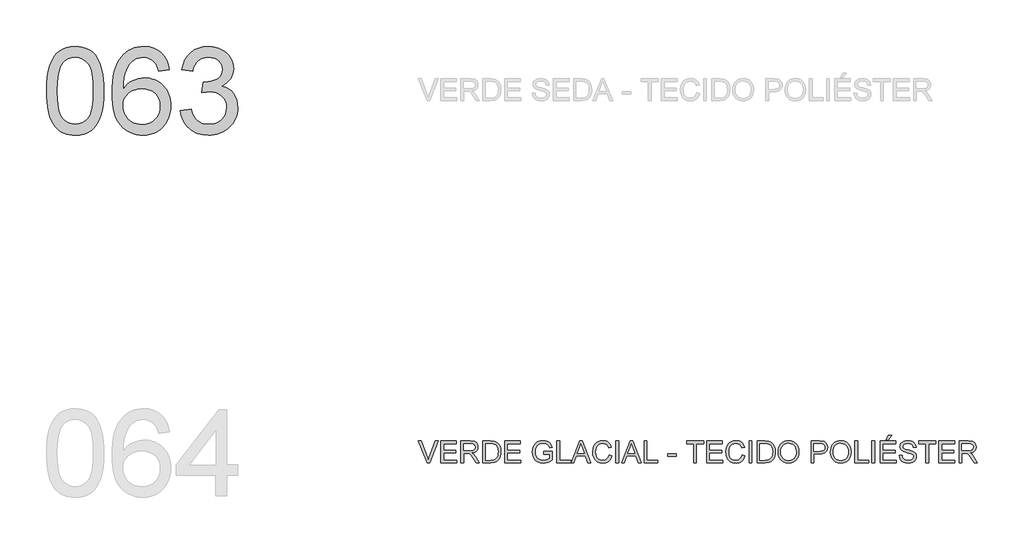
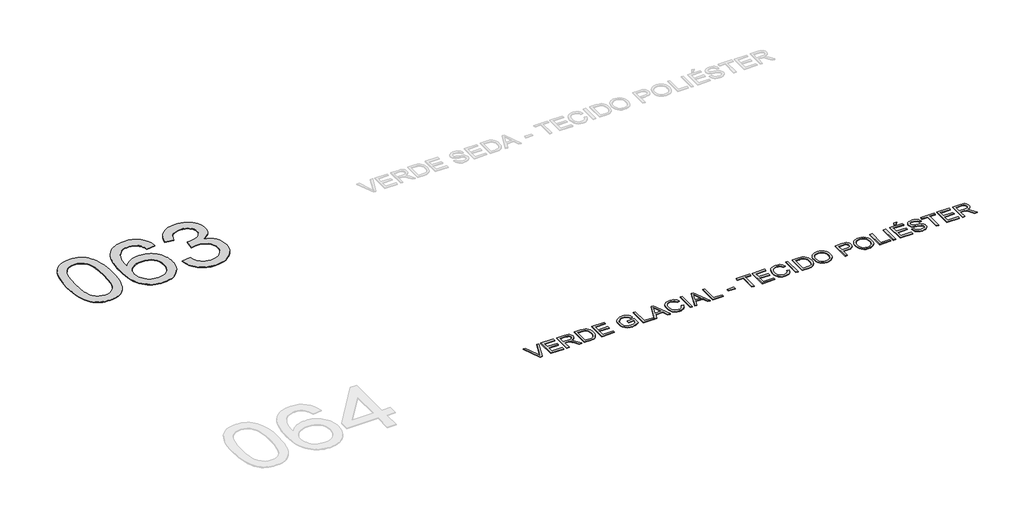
# One storey, part 10 of 67: 2 proxies.
"""IFC4 building model written with IfcOpenShell, lengths in millimetres."""

from ifc_helpers import new_model, si_unit, origin, origin_with_axes, place, context, project, spatial, polyline, outline, extrude, element, save

model = new_model("IFC4")

# Units and contexts
model_context = context("Model", 3, world=origin())
ifc_project = project(units=[si_unit("LENGTHUNIT", "METRE", prefix="MILLI")], contexts=[model_context])

# Site, building, storey
site = spatial("IfcSite", under=ifc_project)
building = spatial("IfcBuilding", under=site)
storey = spatial("IfcBuildingStorey", under=building, Name="Marelli - Linha COLAB - Planta Baixa", Elevation=0.0)

# Proxies
placement = place(None, origin())
element("IfcBuildingElementProxy", 1, Name="1200mm Arial", ObjectType="1200mm Arial", at=placement, inside=storey, context=model_context, shape_type="SweptSolid", body=[
    extrude(outline(polyline([(-25275.30917, -74895.792664), (-25272.540858, -74794.4319773), (-25264.2359219, -74702.8385576), (-25250.3943618, -74621.0124048), (-25231.0161777, -74548.953519), (-25206.1841431, -74486.073289), (-25175.9810313, -74431.7831035), (-25140.4068423, -74386.0829627), (-25099.4615763, -74348.9728664), (-25053.0072773, -74320.2596767), (-25000.9059898, -74299.7502555), (-24943.1577136, -74287.4446027), (-24879.7624488, -74283.3427185), (-24832.1217304, -74285.7707396), (-24786.9090332, -74293.0548031), (-24744.1243571, -74305.194909), (-24703.7677023, -74322.1910572), (-24666.8139558, -74343.7581391), (-24634.2380052, -74369.6110463), (-24606.0398502, -74399.7497788), (-24582.2194911, -74434.1743365), (-24561.5813111, -74472.7467637), (-24542.929694, -74515.3291046), (-24511.586148, -74612.5235278), (-24499.611589, -74669.6831928), (-24491.0583327, -74735.9479371), (-24485.9263788, -74811.3177609), (-24484.2157275, -74895.792664), (-24486.9564484, -74996.5095573), (-24495.178611, -75087.6431245), (-24508.8822153, -75169.1933658), (-24528.0672614, -75241.1602811), (-24552.706158, -75304.0681023), (-24582.771314, -75358.4410612), (-24618.2627295, -75404.2791578), (-24659.1804044, -75441.5823921), (-24705.6898857, -75470.4887199), (-24757.9567202, -75491.1360968), (-24815.9809078, -75503.524523), (-24879.7624488, -75507.6539984), (-24922.4367602, -75505.8605737), (-24962.7566269, -75500.4802995), (-25000.7220488, -75491.5131759), (-25036.3330259, -75478.9592028), (-25069.5895583, -75462.8183803), (-25100.4916459, -75443.0907083), (-25129.0392887, -75419.7761868), (-25155.2324867, -75392.8748159), (-25183.3754594, -75350.2786794), (-25207.7660357, -75302.0999336), (-25228.4042156, -75248.3385785), (-25245.2899992, -75188.9946142), (-25258.4233864, -75124.0680406), (-25267.8043773, -75053.5588577), (-25273.4329718, -74977.4670655), (-25275.30917, -74895.792664)]), holes=[polyline([(-25124.6247047, -74895.4983584), (-25120.2101208, -75026.4919399), (-25106.966369, -75132.5247279), (-25097.0335551, -75176.1808245), (-25084.8934493, -75213.5967226), (-25070.5460515, -75244.7724225), (-25053.9913617, -75269.7079239), (-25016.614551, -75307.884878), (-24975.1174619, -75335.1541309), (-24929.5000945, -75351.5156826), (-24879.7624488, -75356.9695332), (-24830.024803, -75351.4972885), (-24784.4074356, -75335.0805545), (-24742.9103465, -75307.7193311), (-24705.5335358, -75269.4136183), (-24688.9788461, -75244.418336), (-24674.6314482, -75213.2104465), (-24662.4913424, -75175.7899498), (-24652.5585285, -75132.1568459), (-24639.3147767, -75026.2528166), (-24634.9001928, -74895.4983584), (-24639.1676239, -74767.9720648), (-24651.9699173, -74663.8062779), (-24661.5716374, -74620.4835744), (-24673.3070731, -74583.0009976), (-24687.1762243, -74551.3585475), (-24703.1790911, -74525.5562241), (-24739.9305024, -74485.5122689), (-24781.905838, -74456.9094438), (-24829.105098, -74439.7477487), (-24881.5282823, -74434.0271837), (-24931.0084107, -74439.067167), (-24975.8532259, -74454.187117), (-25016.062728, -74479.3870337), (-25051.6369169, -74514.666917), (-25068.7434297, -74543.2145599), (-25083.5690741, -74577.2068562), (-25096.1138501, -74616.6438061), (-25106.3777578, -74661.5254095), (-25120.062968, -74767.6225769), (-25124.6247047, -74895.4983584)])]), origin_with_axes(), (0.0, 0.0, 1.0), 10.0),
    extrude(outline(polyline([(-23580.1089362, -74603.5472071), (-23730.7934014, -74622.3827652), (-23741.8666495, -74582.0812927), (-23755.0736131, -74547.7027202), (-23770.4142923, -74519.2470479), (-23787.8886871, -74496.7142757), (-23820.2806967, -74469.2886729), (-23856.2411618, -74449.6989567), (-23895.7700822, -74437.9451269), (-23938.8674579, -74434.0271837), (-23974.4048586, -74436.3080521), (-24008.9121898, -74443.1506572), (-24042.3894513, -74454.554999), (-24074.8366433, -74470.5210776), (-24104.4419469, -74496.6315022), (-24131.4536824, -74528.1681863), (-24155.8718498, -74565.1311297), (-24177.6964492, -74607.5203326), (-24195.7686522, -74658.1316981), (-24208.9296306, -74719.7611293), (-24217.1793843, -74792.4086263), (-24220.5179134, -74876.0741891), (-24191.7955266, -74838.2099347), (-24160.0749016, -74805.5512106), (-24125.3560383, -74778.0980167), (-24087.6389367, -74755.8503531), (-24047.9352724, -74738.6610669), (-24007.2567208, -74726.3830053), (-23965.6032819, -74719.0161683), (-23922.9749557, -74716.560556), (-23886.0763916, -74718.2390176), (-23850.575779, -74723.2744024), (-23816.4731181, -74731.6667104), (-23783.7684087, -74743.4159416), (-23752.4616509, -74758.5220961), (-23722.5528447, -74776.9851737), (-23694.0419901, -74798.8051745), (-23666.9290871, -74823.9820986), (-23642.1660303, -74851.81697), (-23620.7047144, -74881.6108131), (-23602.5451394, -74913.3636278), (-23587.6873053, -74947.0754142), (-23576.1312121, -74982.7461721), (-23567.8768599, -75020.3759017), (-23562.9242485, -75059.9646029), (-23561.273378, -75101.5122757), (-23564.3819809, -75156.4462547), (-23573.7077895, -75209.4120649), (-23589.2508038, -75260.4097065), (-23611.0110238, -75309.4391794), (-23638.2158973, -75354.6702707), (-23670.0928722, -75394.2727675), (-23706.6419484, -75428.2466698), (-23747.863126, -75456.5919775), (-23792.8734881, -75478.9316116), (-23840.790118, -75494.8884932), (-23891.6130156, -75504.4626221), (-23945.342181, -75507.6539984), (-23991.3435252, -75505.5386769), (-24035.1697672, -75499.1927125), (-24076.8209068, -75488.6161052), (-24116.2969442, -75473.8088549), (-24153.5978792, -75454.7709616), (-24188.723712, -75431.5024254), (-24221.6744424, -75404.0032463), (-24252.4500706, -75372.2734242), (-24280.2826428, -75335.6875598), (-24304.4042053, -75293.6202536), (-24324.8147583, -75246.0715057), (-24341.5143016, -75193.0413161), (-24354.5028353, -75134.5296848), (-24363.7803594, -75070.5366117), (-24369.3468738, -75001.062097), (-24371.2023786, -74926.1061404), (-24369.1422394, -74842.1784618), (-24362.9618219, -74764.1828803), (-24352.6611261, -74692.1193959), (-24338.2401519, -74625.9880088), (-24319.6988993, -74565.7887188), (-24297.0373684, -74511.521526), (-24270.2555591, -74463.1864303), (-24239.3534716, -74420.7834319), (-24209.3388993, -74388.5707647), (-24176.8319265, -74360.6531198), (-24141.8325532, -74337.0304971), (-24104.3407793, -74317.7028968), (-24064.356605, -74302.6703188), (-24021.8800301, -74291.9327631), (-23976.9110547, -74285.4902296), (-23929.4496788, -74283.3427185), (-23860.0487404, -74288.6586133), (-23797.2328897, -74304.6062978), (-23741.0021268, -74331.1857719), (-23691.3564515, -74368.3970358), (-23649.6386333, -74414.9892904), (-23617.1914413, -74469.7117372), (-23594.0148756, -74532.5643761), (-23580.1089362, -74603.5472071)]), holes=[polyline([(-24220.5179134, -75099.157831), (-24218.3382126, -75132.9202011), (-24211.7991101, -75165.9284131), (-24200.900606, -75198.182467), (-24185.6427003, -75229.6823629), (-24166.7703539, -75258.9473756), (-24145.028528, -75284.4967801), (-24120.4172225, -75306.3305766), (-24092.9364375, -75324.4487648), (-24062.7609168, -75338.676601), (-24030.0654045, -75348.8393411), (-23994.8499005, -75354.9369852), (-23957.1144049, -75356.9695332), (-23904.7372058, -75352.7572843), (-23857.6759016, -75340.1205378), (-23815.9304922, -75319.0592936), (-23779.5009776, -75289.5735517), (-23749.9508563, -75252.8589286), (-23728.8436268, -75210.1110407), (-23716.1792892, -75161.3298882), (-23711.9578433, -75106.5154709), (-23716.1241069, -75053.8439662), (-23728.6228976, -75007.0769676), (-23749.4542156, -74966.214475), (-23778.6180608, -74931.2564884), (-23815.15794, -74903.2514715), (-23858.1173599, -74883.247888), (-23907.4963208, -74871.2457379), (-23963.2948224, -74867.2450212), (-24014.9730456, -74871.2457379), (-24062.5861729, -74883.247888), (-24106.134204, -74903.2514715), (-24145.6171392, -74931.2564884), (-24178.3862279, -74965.7546225), (-24201.7927198, -75005.2375576), (-24215.836615, -75049.7052938), (-24220.5179134, -75099.157831)])]), origin_with_axes(), (0.0, 0.0, 1.0), 10.0),
    extrude(outline(polyline([(-23429.424471, -75168.6139517), (-23278.7400057, -75149.7783935), (-23263.8315879, -75200.9691731), (-23245.0052268, -75244.4712191), (-23222.2609224, -75280.2845313), (-23195.5986748, -75308.4091098), (-23164.4114787, -75329.6542951), (-23128.0923287, -75344.8294274), (-23086.6412249, -75353.9345067), (-23040.0581673, -75356.9695332), (-22985.4644792, -75352.7940725), (-22936.756903, -75340.2676906), (-22893.9354388, -75319.3903874), (-22857.0000865, -75290.1621629), (-22827.2568272, -75254.7719149), (-22806.0116419, -75215.4085415), (-22793.2645308, -75172.0720424), (-22789.0154938, -75124.7624178), (-22793.2277426, -75079.7060705), (-22805.8644891, -75038.7148192), (-22826.9257334, -75001.7886639), (-22856.4114753, -74968.9276047), (-22892.3903344, -74941.9526574), (-22932.9309303, -74922.6848379), (-22978.0332629, -74911.1241462), (-23027.6973322, -74907.2705823), (-23075.3012624, -74911.3908606), (-23133.3530413, -74923.7516957), (-23116.5776223, -74773.0672304), (-23092.4445634, -74774.833064), (-23046.1098261, -74772.1291314), (-23002.1663218, -74764.0173334), (-22960.6140504, -74750.49767), (-22921.453012, -74731.5701414), (-22888.2332679, -74707.0324123), (-22864.5048792, -74676.6821477), (-22850.267846, -74640.5193476), (-22845.5221682, -74598.5440119), (-22848.9618649, -74564.4689421), (-22859.2809548, -74533.465687), (-22876.4794381, -74505.5342465), (-22900.5573147, -74480.6746207), (-22930.0614507, -74460.266367), (-22963.5387123, -74445.6890429), (-23000.9890994, -74436.9426485), (-23042.412612, -74434.0271837), (-23083.7257601, -74436.9702397), (-23121.4336646, -74445.7994075), (-23155.5363256, -74460.5146873), (-23186.033743, -74481.1160791), (-23212.1717587, -74507.6035827), (-23233.1962147, -74539.9771983), (-23249.107111, -74578.2369258), (-23259.9044476, -74622.3827652), (-23410.5889128, -74603.5472071), (-23392.728242, -74531.6078829), (-23366.2223442, -74468.2402092), (-23331.0712196, -74413.4441861), (-23287.274868, -74367.2198134), (-23236.2128471, -74330.5235844), (-23179.2647142, -74304.3119922), (-23116.4304695, -74288.5850369), (-23047.7101128, -74283.3427185), (-22999.3796157, -74285.9270895), (-22952.980499, -74293.6802025), (-22908.5127628, -74306.6020576), (-22865.9764072, -74324.6926547), (-22826.852157, -74347.2622151), (-22792.6207373, -74373.6209601), (-22763.2821482, -74403.7688896), (-22738.8363896, -74437.7060036), (-22719.5869642, -74474.0803359), (-22705.8373747, -74511.5399201), (-22697.5876209, -74550.0847561), (-22694.837703, -74589.7148441), (-22697.4496652, -74626.9812902), (-22705.2855517, -74662.5554791), (-22718.3453625, -74696.4374109), (-22736.6290977, -74728.6270854), (-22760.0263925, -74758.3703447), (-22788.4268826, -74784.9130307), (-22821.8305677, -74808.2551433), (-22860.237448, -74828.3966825), (-22810.0215557, -74844.1052437), (-22765.9125045, -74866.5092572), (-22727.9102944, -74895.608723), (-22696.0149254, -74931.4036412), (-22670.7782205, -74973.0110948), (-22652.7520028, -75019.5481672), (-22641.9362721, -75071.0148583), (-22638.3310285, -75127.4111682), (-22640.1336503, -75166.3882656), (-22645.5415156, -75203.8570468), (-22654.5546245, -75239.8175118), (-22667.172977, -75274.2696607), (-22683.396573, -75307.2134933), (-22703.2254125, -75338.6490098), (-22726.6594956, -75368.5762101), (-22753.6988222, -75396.9950943), (-22783.4926653, -75422.9307749), (-22815.1902977, -75445.4083648), (-22848.7917195, -75464.427864), (-22884.2969305, -75479.9892724), (-22921.7059309, -75492.09259), (-22961.0187206, -75500.7378169), (-23002.2352996, -75505.924953), (-23045.355668, -75507.6539984), (-23121.5808174, -75501.7494924), (-23157.1550063, -75494.3688599), (-23191.0369381, -75484.0359743), (-23223.2266127, -75470.7508358), (-23253.7240301, -75454.5134442), (-23282.5291903, -75435.3237996), (-23309.6420933, -75413.1819021), (-23334.4971206, -75388.6947568), (-23356.5286536, -75362.469369), (-23375.7366923, -75334.5057389), (-23392.1212367, -75304.8038663), (-23405.6822867, -75273.3637513), (-23416.4198424, -75240.1853938), (-23429.424471, -75168.6139517)])), origin_with_axes(), (0.0, 0.0, 1.0), 10.0),
])
element("IfcBuildingElementProxy", 2, Name="300mm Arial", ObjectType="300mm Arial", at=placement, inside=storey, context=model_context, shape_type="SweptSolid", body=[
    extrude(outline(polyline([(-20026.5998277, -80030.5663201), (-20146.5293581, -79729.1973896), (-20106.2094914, -79729.1973896), (-20025.9376401, -79946.3213432), (-20009.6772559, -79995.2496485), (-19993.6376009, -79946.3213432), (-19913.1450203, -79729.1973896), (-19872.8251537, -79729.1973896), (-19987.6779126, -80030.5663201), (-20026.5998277, -80030.5663201)])), origin_with_axes(), (0.0, 0.0, 1.0), 10.0),
    extrude(outline(polyline([(-19837.8027877, -80030.5663201), (-19837.8027877, -79729.1973896), (-19621.193869, -79729.1973896), (-19621.193869, -79766.8685059), (-19800.1316714, -79766.8685059), (-19800.1316714, -79856.3374072), (-19630.611648, -79856.3374072), (-19630.611648, -79894.0085235), (-19800.1316714, -79894.0085235), (-19800.1316714, -79992.8952038), (-19616.4849794, -79992.8952038), (-19616.4849794, -80030.5663201), (-19837.8027877, -80030.5663201)])), origin_with_axes(), (0.0, 0.0, 1.0), 10.0),
    extrude(outline(polyline([(-19559.978305, -80030.5663201), (-19559.978305, -79729.1973896), (-19430.1159607, -79729.1973896), (-19395.2131564, -79731.2299376), (-19369.8201017, -79737.3275817), (-19351.260455, -79748.5847708), (-19336.8578749, -79766.0959537), (-19327.6148398, -79787.8101885), (-19324.5338281, -79811.6765329), (-19329.6381907, -79841.3646099), (-19344.9512788, -79865.9759154), (-19356.551058, -79876.0052983), (-19370.9329447, -79884.0205273), (-19408.043041, -79894.0085235), (-19386.6323088, -79910.1217548), (-19356.0981032, -79948.8965171), (-19305.8454227, -80030.5663201), (-19349.6233801, -80030.5663201), (-19388.8396008, -79968.0999573), (-19417.1665144, -79926.750021), (-19437.0689304, -79907.2154871), (-19454.9847835, -79900.0417882), (-19476.8369741, -79898.717413), (-19522.3071887, -79898.717413), (-19522.3071887, -80030.5663201), (-19559.978305, -80030.5663201)]), holes=[polyline([(-19522.3071887, -79861.0462967), (-19437.9886354, -79861.0462967), (-19413.772803, -79859.7127245), (-19394.9832301, -79855.7120078), (-19380.8381674, -79848.7774322), (-19370.5558657, -79838.6422832), (-19364.2926747, -79826.3826157), (-19362.2049444, -79813.0744845), (-19366.187267, -79794.6987789), (-19378.1342348, -79779.8915286), (-19398.6896412, -79770.1242616), (-19428.4972799, -79766.8685059), (-19522.3071887, -79766.8685059), (-19522.3071887, -79861.0462967)])]), origin_with_axes(), (0.0, 0.0, 1.0), 10.0),
    extrude(outline(polyline([(-19258.6093745, -80030.5663201), (-19258.6093745, -79729.1973896), (-19154.6459227, -79729.1973896), (-19100.861575, -79733.5383972), (-19076.8388807, -79741.9077126), (-19056.5685828, -79755.0962821), (-19035.7280677, -79778.0521186), (-19020.8840292, -79806.5997614), (-19011.9996791, -79840.1873876), (-19009.038229, -79878.2631741), (-19011.0431859, -79910.6091985), (-19017.0580565, -79939.0740679), (-19026.2183182, -79963.3082943), (-19037.6594482, -79982.9623899), (-19050.8296236, -79998.477813), (-19065.1770215, -80010.2960221), (-19081.6489378, -80019.0608107), (-19101.1926688, -80025.4159721), (-19149.6427276, -80030.5663201), (-19258.6093745, -80030.5663201)]), holes=[polyline([(-19220.9382582, -79992.8952038), (-19154.2780407, -79992.8952038), (-19126.7052852, -79991.5340404), (-19105.7911937, -79987.4505502), (-19090.0090561, -79980.8838566), (-19077.8321621, -79972.0730828), (-19064.7447601, -79955.7667134), (-19054.9131138, -79934.6594839), (-19048.7602874, -79908.6594239), (-19046.7093453, -79877.6745629), (-19050.7284561, -79836.6189322), (-19062.7857885, -79806.3054558), (-19080.6004741, -79785.4833349), (-19101.8916446, -79772.9017706), (-19123.5598941, -79768.3768221), (-19155.3081103, -79766.8685059), (-19220.9382582, -79766.8685059), (-19220.9382582, -79992.8952038)])]), origin_with_axes(), (0.0, 0.0, 1.0), 10.0),
    extrude(outline(polyline([(-18957.2404441, -80030.5663201), (-18957.2404441, -79729.1973896), (-18740.6315253, -79729.1973896), (-18740.6315253, -79766.8685059), (-18919.5693278, -79766.8685059), (-18919.5693278, -79856.3374072), (-18750.0493044, -79856.3374072), (-18750.0493044, -79894.0085235), (-18919.5693278, -79894.0085235), (-18919.5693278, -79992.8952038), (-18735.9226358, -79992.8952038), (-18735.9226358, -80030.5663201), (-18957.2404441, -80030.5663201)])), origin_with_axes(), (0.0, 0.0, 1.0), 10.0),
    extrude(outline(polyline([(-18420.4270367, -79912.8440816), (-18420.4270367, -79875.1729653), (-18297.9959087, -79875.1729653), (-18297.9959087, -79987.8184322), (-18327.7483651, -80008.5117945), (-18358.4389205, -80023.355833), (-18389.9939987, -80032.2953654), (-18422.3400231, -80035.2752096), (-18464.6004673, -80030.5387289), (-18502.7958154, -80016.3292869), (-18534.5256375, -79993.1435241), (-18557.3895035, -79961.4780814), (-18571.2126695, -79923.4942654), (-18575.8203915, -79881.3533828), (-18571.2310636, -79838.9089976), (-18557.4630799, -79799.4260625), (-18535.0866576, -79766.3074859), (-18504.6720136, -79742.9561762), (-18467.6262967, -79729.1054191), (-18425.3566554, -79724.4885001), (-18394.3258092, -79727.1648416), (-18366.4219598, -79735.1938661), (-18342.9234974, -79747.9961596), (-18325.1088118, -79764.9923077), (-18311.9294393, -79787.0008481), (-18302.3369163, -79814.8403181), (-18337.0649766, -79824.6259792), (-18344.8180897, -79804.7695485), (-18354.2450658, -79789.7875542), (-18366.7162654, -79778.493577), (-18383.602049, -79769.7011973), (-18403.7343912, -79764.0450116), (-18425.9452666, -79762.1596164), (-18451.9453266, -79764.1921644), (-18474.1745962, -79770.2898085), (-18492.5503019, -79779.6891935), (-18506.9896702, -79791.6269642), (-18526.3770513, -79820.6528536), (-18535.2062192, -79849.0901318), (-18538.1492752, -79879.8082784), (-18534.608411, -79915.8331228), (-18523.9858184, -79945.4752146), (-18506.6033941, -79968.5230216), (-18482.7830349, -79984.7650117), (-18454.9067767, -79994.3943229), (-18425.3566554, -79997.6040933), (-18399.2646249, -79995.1852692), (-18373.8163879, -79987.9287968), (-18351.7158771, -79977.9316036), (-18335.667025, -79967.2906169), (-18335.667025, -79912.8440816), (-18420.4270367, -79912.8440816)])), origin_with_axes(), (0.0, 0.0, 1.0), 10.0),
    extrude(outline(polyline([(-18236.7803447, -80030.5663201), (-18236.7803447, -79729.1973896), (-18199.1092284, -79729.1973896), (-18199.1092284, -79992.8952038), (-18048.4247632, -79992.8952038), (-18048.4247632, -80030.5663201), (-18236.7803447, -80030.5663201)])), origin_with_axes(), (0.0, 0.0, 1.0), 10.0),
    extrude(outline(polyline([(-18041.1406997, -80030.5663201), (-17920.8432873, -79729.1973896), (-17888.7639773, -79729.1973896), (-17768.4665649, -80030.5663201), (-17808.2713967, -80030.5663201), (-17842.7787279, -79936.3885293), (-17966.9021131, -79936.3885293), (-18001.3358678, -80030.5663201), (-18041.1406997, -80030.5663201)]), holes=[polyline([(-17953.06975, -79898.717413), (-17856.5375145, -79898.717413), (-17883.6872057, -79824.6259792), (-17904.8036323, -79766.8685059), (-17923.565614, -79818.1512561), (-17953.06975, -79898.717413)])]), origin_with_axes(), (0.0, 0.0, 1.0), 10.0),
    extrude(outline(polyline([(-17516.3202454, -79923.4390831), (-17478.6491291, -79933.1511677), (-17486.103338, -79956.5783531), (-17496.0315533, -79977.0486868), (-17508.4337751, -79994.5621691), (-17523.3100033, -80009.1187997), (-17540.3245456, -80020.5622291), (-17559.1417096, -80028.7361071), (-17579.7614954, -80033.640434), (-17602.183903, -80035.2752096), (-17645.879087, -80030.3271968), (-17680.5795562, -80015.4831583), (-17707.1774245, -79991.2581289), (-17726.5648056, -79958.1671434), (-17738.4014088, -79919.2636224), (-17742.3469432, -79877.6009865), (-17737.886374, -79833.6574821), (-17724.5046664, -79795.7104543), (-17702.9007963, -79764.9647166), (-17673.7737393, -79742.6250824), (-17639.22962, -79729.0226457), (-17601.3745626, -79724.4885001), (-17560.0706116, -79730.3562179), (-17542.1018754, -79737.6908652), (-17525.9219654, -79747.9593714), (-17511.7975961, -79760.8904235), (-17499.9954818, -79776.2127086), (-17483.3580186, -79814.0309777), (-17521.0291349, -79823.0072984), (-17534.0889457, -79795.5357104), (-17551.9312225, -79776.6909552), (-17574.7766944, -79765.7924511), (-17602.8460906, -79762.1596164), (-17635.2013121, -79766.1879242), (-17661.7807863, -79778.2728478), (-17681.9499166, -79797.1451941), (-17695.0741068, -79821.5357704), (-17702.2753969, -79849.1085259), (-17704.6758269, -79877.5274101), (-17701.8339385, -79912.3290468), (-17693.3082732, -79942.421794), (-17678.7769344, -79966.6560205), (-17657.9180253, -79983.8820949), (-17632.9112467, -79994.1735937), (-17605.9362994, -79997.6040933), (-17574.4915859, -79992.931992), (-17548.2891907, -79978.9156879), (-17528.5063365, -79955.702334), (-17516.3202454, -79923.4390831)])), origin_with_axes(), (0.0, 0.0, 1.0), 10.0),
    extrude(outline(polyline([(-17422.1424546, -80030.5663201), (-17422.1424546, -79729.1973896), (-17384.4713383, -79729.1973896), (-17384.4713383, -80030.5663201), (-17422.1424546, -80030.5663201)])), origin_with_axes(), (0.0, 0.0, 1.0), 10.0),
    extrude(outline(polyline([(-17344.225048, -80030.5663201), (-17223.9276356, -79729.1973896), (-17191.8483256, -79729.1973896), (-17071.5509132, -80030.5663201), (-17111.3557451, -80030.5663201), (-17145.8630762, -79936.3885293), (-17269.9864614, -79936.3885293), (-17304.4202161, -80030.5663201), (-17344.225048, -80030.5663201)]), holes=[polyline([(-17256.1540984, -79898.717413), (-17159.6218628, -79898.717413), (-17186.7715541, -79824.6259792), (-17207.8879806, -79766.8685059), (-17226.6499624, -79818.1512561), (-17256.1540984, -79898.717413)])]), origin_with_axes(), (0.0, 0.0, 1.0), 10.0),
    extrude(outline(polyline([(-17031.3046229, -80030.5663201), (-17031.3046229, -79729.1973896), (-16993.6335066, -79729.1973896), (-16993.6335066, -79992.8952038), (-16842.9490414, -79992.8952038), (-16842.9490414, -80030.5663201), (-17031.3046229, -80030.5663201)])), origin_with_axes(), (0.0, 0.0, 1.0), 10.0),
    extrude(outline(polyline([(-16706.3912448, -79941.0974188), (-16706.3912448, -79903.4263025), (-16588.6690063, -79903.4263025), (-16588.6690063, -79941.0974188), (-16706.3912448, -79941.0974188)])), origin_with_axes(), (0.0, 0.0, 1.0), 10.0),
    extrude(outline(polyline([(-16348.5156399, -80030.5663201), (-16348.5156399, -79766.8685059), (-16447.4023202, -79766.8685059), (-16447.4023202, -79729.1973896), (-16211.9578433, -79729.1973896), (-16211.9578433, -79766.8685059), (-16310.8445236, -79766.8685059), (-16310.8445236, -80030.5663201), (-16348.5156399, -80030.5663201)])), origin_with_axes(), (0.0, 0.0, 1.0), 10.0),
    extrude(outline(polyline([(-16169.5778374, -80030.5663201), (-16169.5778374, -79729.1973896), (-15952.9689187, -79729.1973896), (-15952.9689187, -79766.8685059), (-16131.9067211, -79766.8685059), (-16131.9067211, -79856.3374072), (-15962.3866977, -79856.3374072), (-15962.3866977, -79894.0085235), (-16131.9067211, -79894.0085235), (-16131.9067211, -79992.8952038), (-15948.2600291, -79992.8952038), (-15948.2600291, -80030.5663201), (-16169.5778374, -80030.5663201)])), origin_with_axes(), (0.0, 0.0, 1.0), 10.0),
    extrude(outline(polyline([(-15679.8533254, -79923.4390831), (-15642.1822091, -79933.1511677), (-15649.6364181, -79956.5783531), (-15659.5646334, -79977.0486868), (-15671.9668552, -79994.5621691), (-15686.8430834, -80009.1187997), (-15703.8576256, -80020.5622291), (-15722.6747897, -80028.7361071), (-15743.2945755, -80033.640434), (-15765.7169831, -80035.2752096), (-15809.4121671, -80030.3271968), (-15844.1126363, -80015.4831583), (-15870.7105045, -79991.2581289), (-15890.0978857, -79958.1671434), (-15901.9344889, -79919.2636224), (-15905.8800233, -79877.6009865), (-15901.4194541, -79833.6574821), (-15888.0377465, -79795.7104543), (-15866.4338763, -79764.9647166), (-15837.3068194, -79742.6250824), (-15802.7627, -79729.0226457), (-15764.9076427, -79724.4885001), (-15723.6036917, -79730.3562179), (-15705.6349555, -79737.6908652), (-15689.4550455, -79747.9593714), (-15675.3306762, -79760.8904235), (-15663.5285619, -79776.2127086), (-15646.8910987, -79814.0309777), (-15684.562215, -79823.0072984), (-15697.6220258, -79795.5357104), (-15715.4643026, -79776.6909552), (-15738.3097745, -79765.7924511), (-15766.3791707, -79762.1596164), (-15798.7343922, -79766.1879242), (-15825.3138663, -79778.2728478), (-15845.4829967, -79797.1451941), (-15858.6071869, -79821.5357704), (-15865.808477, -79849.1085259), (-15868.208907, -79877.5274101), (-15865.3670186, -79912.3290468), (-15856.8413533, -79942.421794), (-15842.3100145, -79966.6560205), (-15821.4511054, -79983.8820949), (-15796.4443268, -79994.1735937), (-15769.4693795, -79997.6040933), (-15738.0246659, -79992.931992), (-15711.8222708, -79978.9156879), (-15692.0394165, -79955.702334), (-15679.8533254, -79923.4390831)])), origin_with_axes(), (0.0, 0.0, 1.0), 10.0),
    extrude(outline(polyline([(-15585.6755347, -80030.5663201), (-15585.6755347, -79729.1973896), (-15548.0044184, -79729.1973896), (-15548.0044184, -80030.5663201), (-15585.6755347, -80030.5663201)])), origin_with_axes(), (0.0, 0.0, 1.0), 10.0),
    extrude(outline(polyline([(-15472.6621858, -80030.5663201), (-15472.6621858, -79729.1973896), (-15368.6987339, -79729.1973896), (-15314.9143862, -79733.5383972), (-15290.8916919, -79741.9077126), (-15270.621394, -79755.0962821), (-15249.780879, -79778.0521186), (-15234.9368405, -79806.5997614), (-15226.0524903, -79840.1873876), (-15223.0910402, -79878.2631741), (-15225.0959971, -79910.6091985), (-15231.1108677, -79939.0740679), (-15240.2711294, -79963.3082943), (-15251.7122595, -79982.9623899), (-15264.8824349, -79998.477813), (-15279.2298327, -80010.2960221), (-15295.701749, -80019.0608107), (-15315.24548, -80025.4159721), (-15363.6955388, -80030.5663201), (-15472.6621858, -80030.5663201)]), holes=[polyline([(-15434.9910695, -79992.8952038), (-15368.3308519, -79992.8952038), (-15340.7580964, -79991.5340404), (-15319.844005, -79987.4505502), (-15304.0618674, -79980.8838566), (-15291.8849733, -79972.0730828), (-15278.7975714, -79955.7667134), (-15268.965925, -79934.6594839), (-15262.8130987, -79908.6594239), (-15260.7621565, -79877.6745629), (-15264.7812673, -79836.6189322), (-15276.8385997, -79806.3054558), (-15294.6532853, -79785.4833349), (-15315.9444558, -79772.9017706), (-15337.6127053, -79768.3768221), (-15369.3609215, -79766.8685059), (-15434.9910695, -79766.8685059), (-15434.9910695, -79992.8952038)])]), origin_with_axes(), (0.0, 0.0, 1.0), 10.0),
    extrude(outline(polyline([(-15185.4199239, -79883.8549804), (-15182.9091293, -79848.5061192), (-15175.3767455, -79817.213157), (-15162.8227724, -79789.9760937), (-15145.2472101, -79766.7949295), (-15123.7031207, -79748.2858666), (-15099.2435666, -79735.0651074), (-15071.8685476, -79727.1326519), (-15041.5780638, -79724.4885001), (-15002.0491434, -79729.454907), (-14966.6037132, -79744.3541278), (-14937.1731536, -79768.1376988), (-14915.6888451, -79799.7571563), (-14902.5554578, -79837.68579), (-14898.1776621, -79880.3968896), (-14902.7853841, -79923.6782064), (-14916.60855, -79962.140269), (-14938.8838049, -79993.8149087), (-14968.8477934, -80016.733957), (-15003.989721, -80030.6398965), (-15041.798793, -80035.2752096), (-15081.9347187, -80030.1524528), (-15117.582484, -80014.7841825), (-15146.9394672, -79990.5591531), (-15168.2030466, -79958.8661192), (-15181.1157046, -79922.3998164), (-15185.4199239, -79883.8549804)]), holes=[polyline([(-15147.7488076, -79884.2228624), (-15145.8657117, -79909.1974513), (-15140.2164238, -79931.3669401), (-15130.800944, -79950.7313286), (-15117.6192722, -79967.2906169), (-15101.5957121, -79980.5527628), (-15083.654567, -79990.0257242), (-15063.7958371, -79995.709501), (-15042.0195222, -79997.6040933), (-15019.8707268, -79995.6911069), (-14999.7774721, -79989.9521478), (-14981.739758, -79980.3872159), (-14965.7575846, -79966.9963113), (-14952.6724819, -79950.0875351), (-14943.3259799, -79929.9689885), (-14937.7180788, -79906.6406715), (-14935.8487784, -79880.102584), (-14939.0493518, -79846.7540812), (-14948.6510718, -79817.9305269), (-14964.4056183, -79794.358488), (-14986.0646707, -79776.7645316), (-15012.1934894, -79765.8108452), (-15041.3573346, -79762.1596164), (-15062.3771921, -79763.9185522), (-15081.8795364, -79769.1953595), (-15099.8643674, -79777.9900385), (-15116.3316852, -79790.302589), (-15130.0766763, -79806.7262208), (-15139.894527, -79827.8541437), (-15145.7852375, -79853.6863575), (-15147.7488076, -79884.2228624)])]), origin_with_axes(), (0.0, 0.0, 1.0), 10.0),
    extrude(outline(polyline([(-14728.6576387, -80030.5663201), (-14728.6576387, -79729.1973896), (-14616.968665, -79729.1973896), (-14571.9399088, -79732.0668692), (-14551.8627489, -79737.4287493), (-14535.3356502, -79746.1567496), (-14522.0275191, -79758.6463433), (-14511.6072616, -79775.2930036), (-14504.875021, -79794.9287051), (-14502.6309409, -79816.3854225), (-14504.1461548, -79834.8852883), (-14508.6917967, -79851.9044291), (-14516.2678666, -79867.4428449), (-14526.8743644, -79881.5005356), (-14541.4355936, -79893.1531978), (-14560.8758578, -79901.476528), (-14585.1951569, -79906.470526), (-14614.393491, -79908.1351921), (-14690.9865224, -79908.1351921), (-14690.9865224, -80030.5663201), (-14728.6576387, -80030.5663201)]), holes=[polyline([(-14690.9865224, -79870.4640758), (-14612.186199, -79870.4640758), (-14578.7825139, -79867.005985), (-14556.7095942, -79856.6317127), (-14544.4039414, -79839.9850525), (-14540.3020572, -79817.7097977), (-14542.7208813, -79800.7872259), (-14549.9773537, -79786.5134045), (-14561.1701634, -79775.7712502), (-14575.3979995, -79769.4436799), (-14613.0691158, -79766.8685059), (-14690.9865224, -79766.8685059), (-14690.9865224, -79870.4640758)])]), origin_with_axes(), (0.0, 0.0, 1.0), 10.0),
    extrude(outline(polyline([(-14464.9598246, -79883.8549804), (-14462.44903, -79848.5061192), (-14454.9166461, -79817.213157), (-14442.362673, -79789.9760937), (-14424.7871107, -79766.7949295), (-14403.2430214, -79748.2858666), (-14378.7834672, -79735.0651074), (-14351.4084482, -79727.1326519), (-14321.1179645, -79724.4885001), (-14281.5890441, -79729.454907), (-14246.1436138, -79744.3541278), (-14216.7130542, -79768.1376988), (-14195.2287457, -79799.7571563), (-14182.0953585, -79837.68579), (-14177.7175627, -79880.3968896), (-14182.3252847, -79923.6782064), (-14196.1484507, -79962.140269), (-14218.4237055, -79993.8149087), (-14248.387694, -80016.733957), (-14283.5296216, -80030.6398965), (-14321.3386937, -80035.2752096), (-14361.4746193, -80030.1524528), (-14397.1223847, -80014.7841825), (-14426.4793679, -79990.5591531), (-14447.7429472, -79958.8661192), (-14460.6556052, -79922.3998164), (-14464.9598246, -79883.8549804)]), holes=[polyline([(-14427.2887083, -79884.2228624), (-14425.4056123, -79909.1974513), (-14419.7563244, -79931.3669401), (-14410.3408446, -79950.7313286), (-14397.1591729, -79967.2906169), (-14381.1356127, -79980.5527628), (-14363.1944677, -79990.0257242), (-14343.3357377, -79995.709501), (-14321.5594229, -79997.6040933), (-14299.4106275, -79995.6911069), (-14279.3173728, -79989.9521478), (-14261.2796587, -79980.3872159), (-14245.2974853, -79966.9963113), (-14232.2123825, -79950.0875351), (-14222.8658806, -79929.9689885), (-14217.2579794, -79906.6406715), (-14215.388679, -79880.102584), (-14218.5892524, -79846.7540812), (-14228.1909725, -79817.9305269), (-14243.9455189, -79794.358488), (-14265.6045714, -79776.7645316), (-14291.7333901, -79765.8108452), (-14320.8972353, -79762.1596164), (-14341.9170928, -79763.9185522), (-14361.419437, -79769.1953595), (-14379.4042681, -79777.9900385), (-14395.8715859, -79790.302589), (-14409.6165769, -79806.7262208), (-14419.4344277, -79827.8541437), (-14425.3251381, -79853.6863575), (-14427.2887083, -79884.2228624)])]), origin_with_axes(), (0.0, 0.0, 1.0), 10.0),
    extrude(outline(polyline([(-14125.9197778, -80030.5663201), (-14125.9197778, -79729.1973896), (-14088.2486615, -79729.1973896), (-14088.2486615, -79992.8952038), (-13937.5641963, -79992.8952038), (-13937.5641963, -80030.5663201), (-14125.9197778, -80030.5663201)])), origin_with_axes(), (0.0, 0.0, 1.0), 10.0),
    extrude(outline(polyline([(-13890.4753009, -80030.5663201), (-13890.4753009, -79729.1973896), (-13852.8041846, -79729.1973896), (-13852.8041846, -80030.5663201), (-13890.4753009, -80030.5663201)])), origin_with_axes(), (0.0, 0.0, 1.0), 10.0),
    extrude(outline(polyline([(-13777.461952, -80030.5663201), (-13777.461952, -79729.1973896), (-13560.8530332, -79729.1973896), (-13560.8530332, -79766.8685059), (-13739.7908357, -79766.8685059), (-13739.7908357, -79856.3374072), (-13570.2708123, -79856.3374072), (-13570.2708123, -79894.0085235), (-13739.7908357, -79894.0085235), (-13739.7908357, -79992.8952038), (-13556.1441437, -79992.8952038), (-13556.1441437, -80030.5663201), (-13777.461952, -80030.5663201)])), origin_with_axes(), (0.0, 0.0, 1.0), 10.0),
    extrude(outline(polyline([(-13692.7019403, -79710.3618315), (-13664.4486031, -79653.855157), (-13617.3597077, -79653.855157), (-13664.4486031, -79710.3618315), (-13692.7019403, -79710.3618315)])), origin_with_axes(), (0.0, 0.0, 1.0), 10.0),
    extrude(outline(polyline([(-13513.7641378, -79926.9707502), (-13476.0930215, -79926.9707502), (-13471.7704081, -79947.8756446), (-13463.9529157, -79964.6786547), (-13451.7576276, -79978.0143771), (-13434.3016269, -79988.517408), (-13412.9644712, -79995.332422), (-13389.1257179, -79997.6040933), (-13368.1380501, -79995.884245), (-13349.7623444, -79990.7247), (-13334.8723206, -79982.5577197), (-13324.3416985, -79971.8155654), (-13318.0785076, -79959.4823216), (-13315.9907772, -79946.5420724), (-13317.5542757, -79933.932917), (-13322.2447712, -79923.0344129), (-13331.7729148, -79913.7361954), (-13347.849358, -79905.9279001), (-13402.7005635, -79891.5437141), (-13438.7070138, -79882.0247675), (-13461.7456237, -79872.9656733), (-13480.4984084, -79860.2921386), (-13493.7881455, -79844.9330653), (-13501.7068054, -79827.2195472), (-13504.3463588, -79807.4826782), (-13501.0814061, -79785.4189555), (-13491.2865479, -79764.845155), (-13475.2193018, -79747.4075484), (-13453.137185, -79734.7524077), (-13426.6312873, -79727.054477), (-13397.2926982, -79724.4885001), (-13365.5076938, -79727.1740386), (-13337.6958149, -79735.2306543), (-13314.850343, -79748.4928003), (-13297.9645595, -79766.7949295), (-13287.2775875, -79788.9966079), (-13283.0285505, -79813.9574013), (-13320.6996668, -79813.9574013), (-13327.6158483, -79791.4798114), (-13342.0368225, -79775.2562154), (-13364.5695947, -79765.4337661), (-13395.8211702, -79762.1596164), (-13427.8085097, -79765.3969779), (-13449.7526707, -79775.1090626), (-13462.4445995, -79789.4012781), (-13466.6752425, -79806.3790322), (-13463.6770042, -79820.8551887), (-13454.6822894, -79832.4986539), (-13433.4187101, -79842.9097143), (-13393.1724198, -79853.541504), (-13351.6385426, -79863.6398648), (-13326.5122023, -79872.4506385), (-13305.0370908, -79886.1174547), (-13290.0550966, -79902.9848441), (-13281.2535198, -79922.868866), (-13278.3196609, -79945.5855792), (-13281.6949782, -79968.8081301), (-13291.8209302, -79990.6511236), (-13308.2836494, -80009.4498935), (-13330.6692688, -80023.539774), (-13357.5890338, -80032.3413507), (-13387.6541899, -80035.2752096), (-13424.5619511, -80032.1114244), (-13454.9398068, -80022.620069), (-13479.137245, -80006.764355), (-13497.5037537, -79984.5074943), (-13509.2943716, -79957.3945912), (-13513.7641378, -79926.9707502)])), origin_with_axes(), (0.0, 0.0, 1.0), 10.0),
    extrude(outline(polyline([(-13146.4707539, -80030.5663201), (-13146.4707539, -79766.8685059), (-13245.3574342, -79766.8685059), (-13245.3574342, -79729.1973896), (-13009.9129572, -79729.1973896), (-13009.9129572, -79766.8685059), (-13108.7996376, -79766.8685059), (-13108.7996376, -80030.5663201), (-13146.4707539, -80030.5663201)])), origin_with_axes(), (0.0, 0.0, 1.0), 10.0),
    extrude(outline(polyline([(-12967.5329514, -80030.5663201), (-12967.5329514, -79729.1973896), (-12750.9240326, -79729.1973896), (-12750.9240326, -79766.8685059), (-12929.8618351, -79766.8685059), (-12929.8618351, -79856.3374072), (-12760.3418117, -79856.3374072), (-12760.3418117, -79894.0085235), (-12929.8618351, -79894.0085235), (-12929.8618351, -79992.8952038), (-12746.2151431, -79992.8952038), (-12746.2151431, -80030.5663201), (-12967.5329514, -80030.5663201)])), origin_with_axes(), (0.0, 0.0, 1.0), 10.0),
    extrude(outline(polyline([(-12689.7084686, -80030.5663201), (-12689.7084686, -79729.1973896), (-12559.8461243, -79729.1973896), (-12524.9433201, -79731.2299376), (-12499.5502653, -79737.3275817), (-12480.9906187, -79748.5847708), (-12466.5880386, -79766.0959537), (-12457.3450034, -79787.8101885), (-12454.2639917, -79811.6765329), (-12459.3683544, -79841.3646099), (-12474.6814425, -79865.9759154), (-12486.2812216, -79876.0052983), (-12500.6631084, -79884.0205273), (-12537.7732046, -79894.0085235), (-12516.3624725, -79910.1217548), (-12485.8282669, -79948.8965171), (-12435.5755864, -80030.5663201), (-12479.3535438, -80030.5663201), (-12518.5697645, -79968.0999573), (-12546.8966781, -79926.750021), (-12566.7990941, -79907.2154871), (-12584.7149472, -79900.0417882), (-12606.5671377, -79898.717413), (-12652.0373523, -79898.717413), (-12652.0373523, -80030.5663201), (-12689.7084686, -80030.5663201)]), holes=[polyline([(-12652.0373523, -79861.0462967), (-12567.718799, -79861.0462967), (-12543.5029667, -79859.7127245), (-12524.7133938, -79855.7120078), (-12510.5683311, -79848.7774322), (-12500.2860293, -79838.6422832), (-12494.0228384, -79826.3826157), (-12491.935108, -79813.0744845), (-12495.9174306, -79794.6987789), (-12507.8643984, -79779.8915286), (-12528.4198049, -79770.1242616), (-12558.2274436, -79766.8685059), (-12652.0373523, -79766.8685059), (-12652.0373523, -79861.0462967)])]), origin_with_axes(), (0.0, 0.0, 1.0), 10.0),
])

save(model, "model.ifc")
